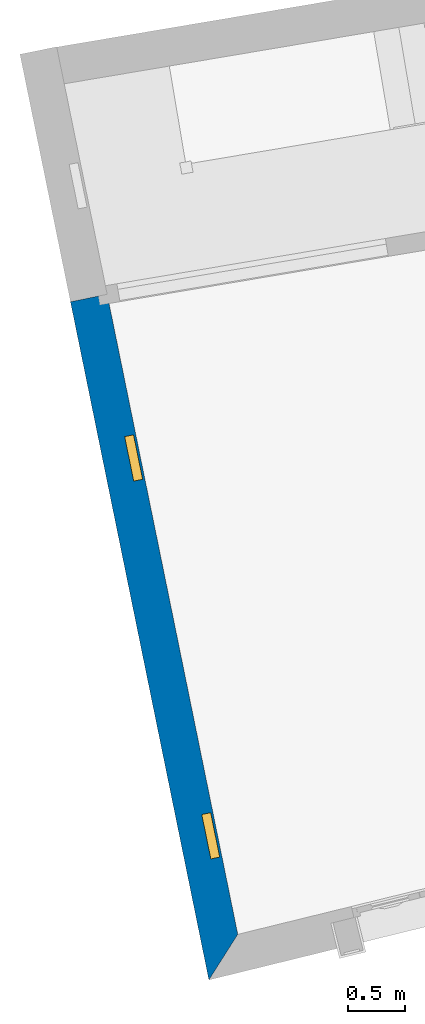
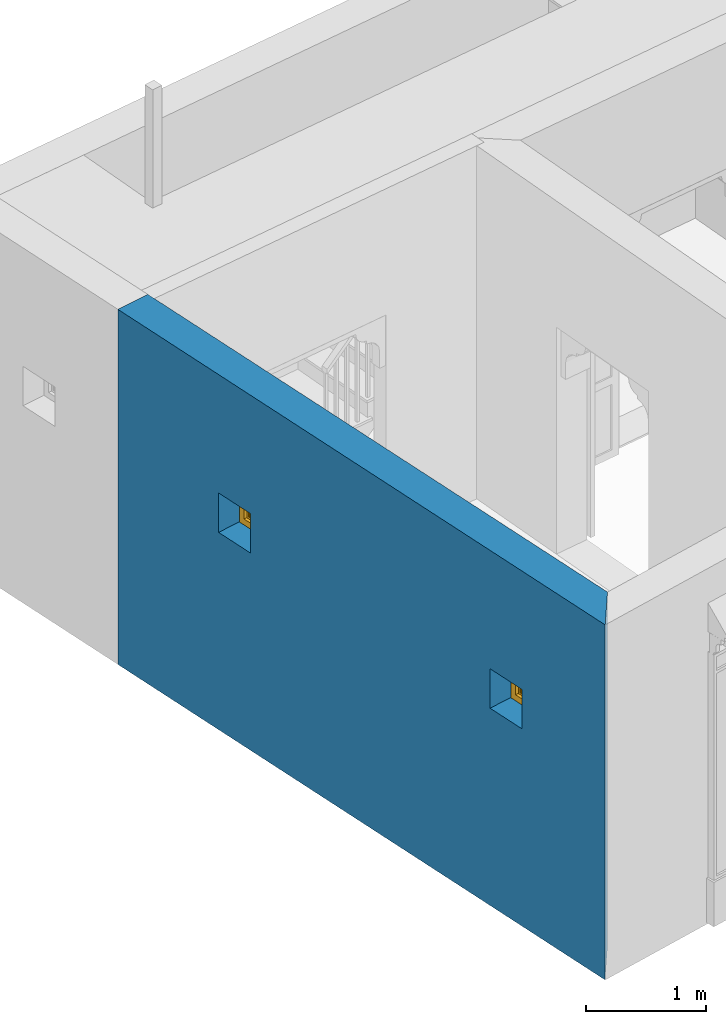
# One storey, part 3 of 15: 2 windows, 1 wall, 2 openings.
"""IFC4 building model written with IfcOpenShell, lengths in metres."""

from ifc_helpers import new_model, si_unit, frame, origin, origin_with_axes, place, context, subcontext, project, spatial, polyline, outline, extrude, faceted_brep, source, transform, mapped, material, layer, layer_set, layer_usage, type_object, type_shapes, element, fill, save


model = new_model("IFC4")

# Units and contexts
model_context = context("Model", 3, world=origin_with_axes())
body_context = subcontext(model_context, "Body", "Model", "MODEL_VIEW")
ifc_project = project(units=[si_unit("PLANEANGLEUNIT", "RADIAN"), si_unit("MASSUNIT", "GRAM", prefix="KILO"), si_unit("FORCEUNIT", "NEWTON", prefix="KILO"), si_unit("LENGTHUNIT", "METRE"), si_unit("AREAUNIT", "SQUARE_METRE"), si_unit("VOLUMEUNIT", "CUBIC_METRE")], contexts=[model_context, model_context])

# Site, building, storey
site_placement = place(None, origin_with_axes())
site = spatial("IfcSite", under=ifc_project, at=site_placement, Name="Site plot-6", CompositionType="ELEMENT")
building_placement = place(None, origin_with_axes())
building = spatial("IfcBuilding", under=site, at=building_placement, Name="Building plot-6", CompositionType="ELEMENT")
storey_placement = place(None, origin_with_axes())
storey = spatial("IfcBuildingStorey", under=building, at=storey_placement, Name="plot-6 0", CompositionType="ELEMENT", Elevation=0.0)

# Wall, openings, windows
ifc_material = material(Name="Masonry")
ifc_layer = layer(ifc_material, 0.33, ventilated=False)
ifc_layer_set = layer_set([ifc_layer], Name="exterior_0.08_0.25")
ifc_layer_usage = layer_usage(ifc_layer_set, "AXIS2", "POSITIVE", -0.25)
wall_type = type_object("IfcWallType", Name="exterior_0.08_0.25", PredefinedType="SOLIDWALL", material=ifc_layer_set)
wall_placement = place(storey_placement, frame((-10.5327129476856, 2.06032949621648, 0.0), z_axis=(0.0, 0.0, 1.0), x_axis=(0.19994351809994, -0.979807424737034, 0.0)))
wall = element("IfcWall", 1, at=wall_placement, inside=storey, type_object=wall_type, material=ifc_layer_usage, Name="exterior", context=body_context, shape_type="SweptSolid", body=[
    extrude(outline(polyline([(7.86495596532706e-16, 0.0800000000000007), (-2.26637030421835e-15, -0.250000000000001), (6.10317165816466, -0.25), (5.75996788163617, 0.0800000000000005), (7.86495596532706e-16, 0.0800000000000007)])), origin_with_axes(), (0.0, 0.0, 1.0), 3.6),
])
opening_1_placement = place(wall_placement, frame((1.26079219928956, 0.0, 2.0)))
opening_1 = element("IfcOpeningElement", 2, at=opening_1_placement, cuts=wall, Name="My Opening", ObjectType="Opening", context=body_context, shape_type="SweptSolid", body=[
    extrude(outline(polyline([(0.0, -0.27), (0.399999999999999, -0.270000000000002), (0.399999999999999, 1.1), (0.0, 1.1), (0.0, -0.27)])), origin_with_axes(), (0.0, 0.0, 1.0), 0.4),
])
opening_2_placement = place(wall_placement, frame((4.66079219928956, 0.0, 2.0)))
opening_2 = element("IfcOpeningElement", 3, at=opening_2_placement, cuts=wall, Name="My Opening", ObjectType="Opening", context=body_context, shape_type="SweptSolid", body=[
    extrude(outline(polyline([(0.0, -0.27), (0.4, -0.270000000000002), (0.4, 1.1), (1.77635683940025e-15, 1.1), (0.0, -0.27)])), origin_with_axes(), (0.0, 0.0, 1.0), 0.4),
])
window_type = type_object("IfcWindowType", Name="barred_window", PartitioningType="DOUBLE_PANEL_HORIZONTAL", PredefinedType="NOTDEFINED")
shared_shape = source(origin(), body_context, "Body", "Brep", [
    faceted_brep([(0.4, 0.25, 0.4), (0.0, 0.25, 0.4), (0.06, 0.25, 0.34), (0.34, 0.25, 0.34), (0.06, 0.33, 0.34), (0.34, 0.33, 0.34), (0.34, 0.25, 0.06), (0.4, 0.25, 0.0), (0.4, 0.33, 0.4), (0.0, 0.33, 0.4), (0.0, 0.25, 0.0), (0.06, 0.25, 0.06), (0.06, 0.33, 0.06), (0.34, 0.33, 0.06), (0.4, 0.33, 0.0), (0.0, 0.33, 0.0), (0.136152, 0.28, 0.08), (0.08, 0.28, 0.08), (0.06, 0.28, 0.06), (0.136152, 0.28, 0.06), (0.136152, 0.29, 0.08), (0.08, 0.29, 0.08), (0.06, 0.28, 0.136152), (0.08, 0.28, 0.136152), (0.06, 0.29, 0.06), (0.136152, 0.29, 0.06), (0.170294, 0.28, 0.08), (0.170294, 0.28, 0.06), (0.136152, 0.28, 0.136152), (0.136152, 0.29, 0.136152), (0.08, 0.29, 0.136152), (0.06, 0.29, 0.136152), (0.08, 0.28, 0.170294), (0.06, 0.28, 0.170294), (0.170294, 0.29, 0.06), (0.229706, 0.28, 0.08), (0.229706, 0.28, 0.06), (0.156152, 0.28, 0.094142), (0.156152, 0.28, 0.136152), (0.185858, 0.28, 0.123848), (0.185858, 0.29, 0.123848), (0.156152, 0.29, 0.094142), (0.156152, 0.29, 0.136152), (0.229706, 0.29, 0.08), (0.170294, 0.29, 0.08), (0.2, 0.28, 0.109706), (0.2, 0.29, 0.109706), (0.06, 0.29, 0.170294), (0.094142, 0.28, 0.156152), (0.08, 0.28, 0.229706), (0.06, 0.28, 0.229706), (0.229706, 0.29, 0.06), (0.263848, 0.28, 0.08), (0.263848, 0.28, 0.06), (0.156152, 0.28, 0.156152), (0.136152, 0.28, 0.156152), (0.173553, 0.28, 0.136152), (0.173553, 0.29, 0.136152), (0.156152, 0.29, 0.156152), (0.136152, 0.29, 0.156152), (0.094142, 0.29, 0.156152), (0.08, 0.29, 0.170294), (0.06, 0.29, 0.229706), (0.123848, 0.28, 0.185858), (0.109706, 0.28, 0.2), (0.08, 0.29, 0.229706), (0.08, 0.28, 0.263848), (0.06, 0.28, 0.263848), (0.263848, 0.29, 0.06), (0.2, 0.28, 0.13799), (0.214142, 0.28, 0.123848), (0.34, 0.28, 0.06), (0.32, 0.28, 0.08), (0.181838, 0.28, 0.156152), (0.136152, 0.28, 0.173553), (0.156152, 0.28, 0.181838), (0.181838, 0.29, 0.156152), (0.2, 0.29, 0.13799), (0.214142, 0.29, 0.123848), (0.136152, 0.29, 0.173553), (0.156152, 0.29, 0.181838), (0.243848, 0.28, 0.094142), (0.243848, 0.29, 0.094142), (0.263848, 0.28, 0.136152), (0.263848, 0.29, 0.08), (0.263848, 0.29, 0.136152), (0.32, 0.29, 0.08), (0.243848, 0.28, 0.136152), (0.243848, 0.29, 0.136152), (0.06, 0.29, 0.263848), (0.123848, 0.29, 0.185858), (0.13799, 0.28, 0.2), (0.123848, 0.28, 0.214142), (0.109706, 0.29, 0.2), (0.094142, 0.28, 0.243848), (0.08, 0.28, 0.32), (0.06, 0.28, 0.34), (0.34, 0.29, 0.06), (0.218162, 0.28, 0.156152), (0.226447, 0.28, 0.136152), (0.34, 0.28, 0.229706), (0.32, 0.28, 0.229706), (0.32, 0.28, 0.170294), (0.32, 0.28, 0.136152), (0.218162, 0.29, 0.156152), (0.226447, 0.29, 0.136152), (0.13799, 0.29, 0.2), (0.32, 0.29, 0.136152), (0.08, 0.29, 0.263848), (0.06, 0.29, 0.34), (0.136152, 0.28, 0.226447), (0.156152, 0.28, 0.218162), (0.094142, 0.29, 0.243848), (0.123848, 0.29, 0.214142), (0.136152, 0.28, 0.243848), (0.136152, 0.28, 0.263848), (0.08, 0.29, 0.32), (0.136152, 0.28, 0.34), (0.136152, 0.28, 0.32), (0.34, 0.29, 0.229706), (0.243848, 0.28, 0.156152), (0.263848, 0.28, 0.156152), (0.34, 0.28, 0.263848), (0.32, 0.28, 0.263848), (0.32, 0.29, 0.229706), (0.32, 0.29, 0.170294), (0.290294, 0.28, 0.2), (0.276152, 0.28, 0.185858), (0.305858, 0.28, 0.156152), (0.243848, 0.29, 0.156152), (0.263848, 0.29, 0.156152), (0.305858, 0.29, 0.156152), (0.276152, 0.29, 0.185858), (0.290294, 0.29, 0.2), (0.136152, 0.29, 0.34), (0.136152, 0.29, 0.226447), (0.156152, 0.29, 0.218162), (0.156152, 0.28, 0.243848), (0.136152, 0.29, 0.243848), (0.156152, 0.28, 0.263848), (0.136152, 0.29, 0.263848), (0.136152, 0.29, 0.32), (0.170294, 0.28, 0.32), (0.170294, 0.28, 0.34), (0.34, 0.29, 0.263848), (0.243848, 0.28, 0.181838), (0.263848, 0.28, 0.173553), (0.34, 0.28, 0.34), (0.32, 0.28, 0.32), (0.305858, 0.28, 0.243848), (0.276152, 0.28, 0.214142), (0.26201, 0.28, 0.2), (0.243848, 0.29, 0.181838), (0.263848, 0.29, 0.173553), (0.26201, 0.29, 0.2), (0.276152, 0.29, 0.214142), (0.32, 0.29, 0.263848), (0.170294, 0.29, 0.34), (0.156152, 0.29, 0.243848), (0.173553, 0.28, 0.263848), (0.181838, 0.28, 0.243848), (0.156152, 0.28, 0.305858), (0.229706, 0.28, 0.32), (0.229706, 0.28, 0.34), (0.34, 0.29, 0.34), (0.263848, 0.28, 0.34), (0.263848, 0.28, 0.32), (0.32, 0.29, 0.32), (0.263848, 0.28, 0.263848), (0.263848, 0.28, 0.243848), (0.305858, 0.29, 0.243848), (0.263848, 0.28, 0.226447), (0.243848, 0.28, 0.218162), (0.243848, 0.29, 0.218162), (0.263848, 0.29, 0.226447), (0.156152, 0.29, 0.263848), (0.170294, 0.29, 0.32), (0.229706, 0.29, 0.34), (0.181838, 0.29, 0.243848), (0.173553, 0.29, 0.263848), (0.185858, 0.28, 0.276152), (0.2, 0.28, 0.26201), (0.156152, 0.29, 0.305858), (0.229706, 0.29, 0.32), (0.263848, 0.29, 0.34), (0.263848, 0.29, 0.32), (0.263848, 0.29, 0.263848), (0.243848, 0.28, 0.243848), (0.243848, 0.28, 0.263848), (0.263848, 0.29, 0.243848), (0.243848, 0.29, 0.243848), (0.2, 0.29, 0.26201), (0.185858, 0.29, 0.276152), (0.214142, 0.28, 0.276152), (0.218162, 0.28, 0.243848), (0.226447, 0.28, 0.263848), (0.243848, 0.28, 0.305858), (0.2, 0.28, 0.290294), (0.2, 0.29, 0.290294), (0.243848, 0.29, 0.263848), (0.218162, 0.29, 0.243848), (0.214142, 0.29, 0.276152), (0.226447, 0.29, 0.263848), (0.243848, 0.29, 0.305858)], [[[0, 1, 2, 3]], [[3, 2, 4, 5]], [[3, 6, 7, 0]], [[1, 0, 8, 9]], [[1, 10, 11, 2]], [[2, 11, 12, 4]], [[9, 8, 5, 4]], [[6, 3, 5, 13]], [[6, 11, 10, 7]], [[0, 7, 14, 8]], [[10, 1, 9, 15]], [[11, 6, 13, 12]], [[4, 12, 15, 9]], [[8, 14, 13, 5]], [[7, 10, 15, 14]], [[12, 13, 14, 15]], [[16, 17, 18, 19]], [[17, 16, 20, 21]], [[22, 18, 17, 23]], [[19, 18, 24, 25]], [[26, 16, 19, 27]], [[16, 28, 29, 20]], [[21, 20, 25, 24]], [[23, 17, 21, 30]], [[18, 22, 31, 24]], [[23, 32, 33, 22]], [[27, 19, 25, 34]], [[35, 26, 27, 36]], [[28, 16, 37, 38]], [[37, 39, 40, 41]], [[38, 37, 41, 42]], [[20, 29, 42, 41]], [[26, 35, 43, 44]], [[45, 26, 44, 46]], [[20, 44, 34, 25]], [[28, 23, 30, 29]], [[24, 31, 30, 21]], [[22, 33, 47, 31]], [[48, 32, 23]], [[32, 49, 50, 33]], [[36, 27, 34, 51]], [[39, 37, 26, 45]], [[52, 35, 36, 53]], [[38, 54, 55, 28]], [[39, 56, 57, 40]], [[41, 40, 46, 44]], [[56, 38, 42, 57]], [[58, 42, 29, 59]], [[35, 45, 46, 43]], [[44, 43, 51, 34]], [[23, 28, 55, 48]], [[29, 30, 60, 59]], [[61, 30, 31, 47]], [[33, 50, 62, 47]], [[48, 63, 64, 32]], [[49, 32, 61, 65]], [[49, 66, 67, 50]], [[53, 36, 51, 68]], [[69, 39, 45, 70]], [[53, 71, 72, 52]], [[73, 54, 38, 56]], [[74, 55, 54, 75]], [[56, 39, 69, 73]], [[40, 57, 76, 77]], [[40, 77, 78, 46]], [[58, 76, 57, 42]], [[59, 79, 80, 58]], [[45, 35, 81, 70]], [[43, 46, 78, 82]], [[83, 52, 84, 85]], [[82, 84, 43]], [[52, 72, 86, 84]], [[43, 84, 68, 51]], [[44, 20, 41]], [[70, 81, 82, 78]], [[81, 87, 88, 82]], [[48, 55, 59, 60]], [[61, 60, 30]], [[65, 61, 47, 62]], [[50, 67, 89, 62]], [[63, 48, 60, 90]], [[63, 91, 92, 64]], [[32, 64, 93, 61]], [[64, 49, 65, 93]], [[94, 66, 49]], [[66, 95, 96, 67]], [[71, 53, 68, 97]], [[98, 69, 70, 99]], [[81, 52, 83, 87]], [[72, 71, 100]], [[100, 101, 102]], [[103, 72, 100]], [[100, 102, 103]], [[54, 73, 76, 58]], [[55, 74, 79, 59]], [[75, 54, 58, 80]], [[63, 74, 75, 91]], [[73, 69, 77, 76]], [[77, 104, 105, 78]], [[79, 90, 106, 80]], [[84, 82, 88, 85]], [[103, 83, 85, 107]], [[72, 103, 107, 86]], [[97, 68, 84, 86]], [[99, 70, 78, 105]], [[87, 99, 105, 88]], [[90, 60, 61, 93]], [[108, 65, 62, 89]], [[67, 96, 109, 89]], [[74, 63, 90, 79]], [[110, 92, 91, 111]], [[49, 64, 92, 94]], [[93, 65, 112, 113]], [[94, 114, 115, 66]], [[95, 66, 108, 116]], [[117, 96, 95, 118]], [[100, 71, 97, 119]], [[69, 98, 104, 77]], [[99, 87, 120, 98]], [[87, 83, 121, 120]], [[101, 100, 122, 123]], [[102, 101, 124, 125]], [[121, 83, 103]], [[103, 102, 126]], [[126, 127, 128]], [[128, 121, 103]], [[103, 126, 128]], [[91, 75, 80, 106]], [[88, 105, 104, 129]], [[106, 90, 93, 113]], [[85, 88, 129, 130]], [[107, 85, 130]], [[131, 132, 133]], [[107, 130, 131]], [[133, 125, 107]], [[107, 131, 133]], [[124, 119, 97]], [[97, 86, 107]], [[107, 125, 124]], [[97, 107, 124]], [[108, 112, 65]], [[116, 108, 89, 109]], [[96, 117, 134, 109]], [[92, 110, 135, 113]], [[111, 91, 106, 136]], [[114, 110, 111, 137]], [[94, 92, 113, 112]], [[114, 94, 112, 138]], [[114, 137, 139, 115]], [[66, 115, 140, 108]], [[118, 95, 116, 141]], [[118, 142, 143, 117]], [[122, 100, 119, 144]], [[98, 120, 129, 104]], [[145, 120, 121, 146]], [[122, 147, 148, 123]], [[123, 149, 101]], [[101, 126, 133, 124]], [[126, 102, 125, 133]], [[127, 126, 150, 151]], [[128, 127, 132, 131]], [[121, 128, 131, 130]], [[113, 135, 136, 106]], [[129, 152, 153, 130]], [[133, 132, 154, 155]], [[119, 124, 156, 144]], [[138, 112, 108, 140]], [[109, 134, 141, 116]], [[117, 143, 157, 134]], [[110, 114, 138, 135]], [[137, 111, 136, 158]], [[159, 139, 137, 160]], [[118, 115, 139, 161]], [[115, 118, 141, 140]], [[161, 142, 118]], [[162, 163, 143, 142]], [[147, 122, 144, 164]], [[120, 145, 152, 129]], [[146, 121, 130, 153]], [[146, 127, 151, 145]], [[147, 165, 166, 148]], [[123, 148, 167, 156]], [[149, 123, 168, 169]], [[149, 150, 126, 101]], [[155, 170, 124, 133]], [[151, 150, 171, 172]], [[127, 146, 153, 132]], [[135, 138, 158, 136]], [[132, 153, 152, 154]], [[155, 154, 173, 174]], [[170, 156, 124]], [[164, 144, 156, 167]], [[158, 138, 140, 175]], [[176, 141, 134, 157]], [[143, 163, 177, 157]], [[160, 137, 158, 178]], [[139, 159, 179, 175]], [[180, 159, 160, 181]], [[161, 139, 175, 182]], [[140, 141, 182, 175]], [[166, 165, 163, 162]], [[162, 142, 176, 183]], [[165, 147, 164, 184]], [[145, 151, 154, 152]], [[148, 166, 185, 167]], [[156, 186, 168, 123]], [[187, 169, 168, 188]], [[149, 169, 189, 170]], [[150, 149, 170, 155]], [[171, 150, 155, 174]], [[171, 169, 187, 172]], [[151, 172, 173, 154]], [[189, 174, 173, 190]], [[156, 170, 189, 186]], [[184, 164, 167, 185]], [[175, 179, 178, 158]], [[176, 182, 141]], [[177, 183, 176, 157]], [[163, 165, 184, 177]], [[181, 160, 178, 191]], [[159, 180, 192, 179]], [[180, 161, 182, 192]], [[193, 181, 194, 195]], [[196, 162, 197, 193]], [[180, 197, 142, 161]], [[197, 180, 181, 193]], [[142, 197, 198, 176]], [[162, 196, 166]], [[35, 52, 81]], [[197, 162, 183, 198]], [[185, 166, 168, 186]], [[196, 188, 168, 166]], [[187, 188, 195, 194]], [[169, 171, 174, 189]], [[172, 187, 190, 173]], [[189, 190, 199, 186]], [[184, 185, 183, 177]], [[179, 192, 191, 178]], [[176, 198, 192, 182]], [[194, 181, 191, 200]], [[191, 192, 198, 201]], [[26, 37, 16]], [[193, 195, 202, 201]], [[196, 193, 201, 203]], [[191, 201, 202, 200]], [[183, 203, 201, 198]], [[188, 196, 203, 199]], [[203, 183, 185]], [[199, 203, 185, 186]], [[195, 188, 199, 202]], [[187, 194, 200, 190]], [[199, 190, 200, 202]]]),
])
type_shapes(window_type, [shared_shape])
window_1_placement = place(storey_placement, frame((-10.5451737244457, 0.771011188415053, 2.0), z_axis=(0.0, 0.0, 1.0), x_axis=(0.0799774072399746, -0.391922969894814, 0.0)))
window_1 = element("IfcWindow", 4, at=window_1_placement, inside=storey, type_object=window_type, Name="circulation street window", OverallHeight=0.4, OverallWidth=0.4, context=body_context, shape_type="MappedRepresentation", body=[
    mapped(shared_shape, transform((0.0, 0.0, 0.0), scale=1.0)),
])
fill(opening_1, window_1)
window_2_placement = place(storey_placement, frame((-9.86536576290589, -2.56033405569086, 2.0), z_axis=(0.0, 0.0, 1.0), x_axis=(0.0799774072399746, -0.391922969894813, 0.0)))
window_2 = element("IfcWindow", 5, at=window_2_placement, inside=storey, type_object=window_type, Name="circulation street window", OverallHeight=0.4, OverallWidth=0.4, context=body_context, shape_type="MappedRepresentation", body=[
    mapped(shared_shape, transform((0.0, 0.0, 0.0), scale=1.0)),
])
fill(opening_2, window_2)

save(model, "model.ifc")
